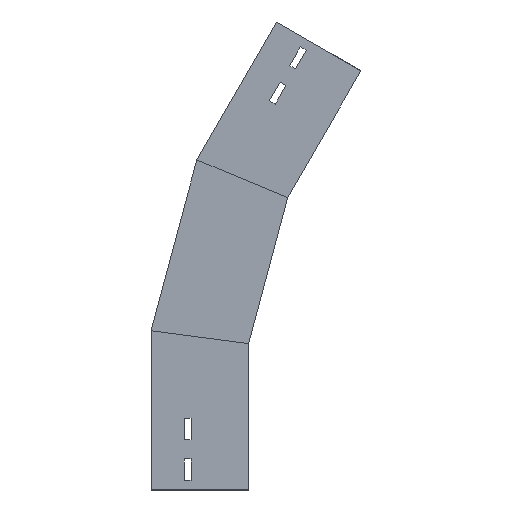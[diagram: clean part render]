
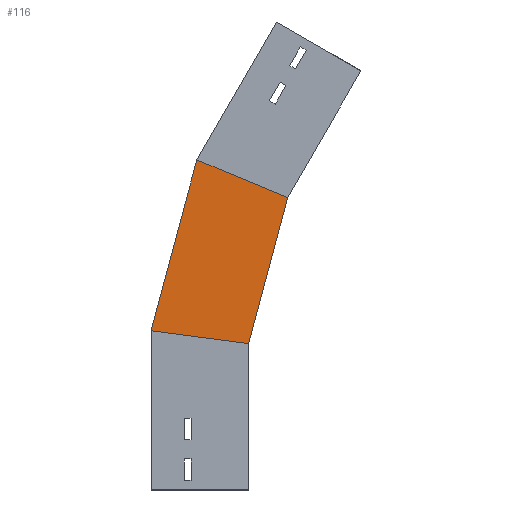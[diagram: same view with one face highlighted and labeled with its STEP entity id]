
A CAD part, left-side view. The second image highlights one B-rep face of the part: STEP entity #116.
In plain terms, the highlighted planar face has unit normal (-1, 0, 0) as drawn and (1, 0, 0) by its records, which use the part's own axes.
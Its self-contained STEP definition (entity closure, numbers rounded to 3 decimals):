
#68 = DIRECTION ( 'NONE',  ( 0., -0.259, 0.966 ) ) ;
#73 = CARTESIAN_POINT ( 'NONE',  ( 0., -19.411, 147.444 ) ) ;
#76 = CARTESIAN_POINT ( 'NONE',  ( 0., 3.774, 135.915 ) ) ;
#81 = ORIENTED_EDGE ( 'NONE', *, *, #213, .T. ) ;
#83 = ORIENTED_EDGE ( 'NONE', *, *, #96, .T. ) ;
#96 = EDGE_CURVE ( 'NONE', #253, #535, #423, .T. ) ;
#116 = ADVANCED_FACE ( 'NONE', ( #1366 ), #242, .T. ) ;
#130 = VECTOR ( 'NONE', #414, 1000. ) ;
#213 = EDGE_CURVE ( 'NONE', #828, #253, #899, .T. ) ;
#232 = DIRECTION ( 'NONE',  ( 1., 0., 0. ) ) ;
#236 = VECTOR ( 'NONE', #68, 1000. ) ;
#242 = PLANE ( 'NONE',  #359 ) ;
#253 = VERTEX_POINT ( 'NONE', #1165 ) ;
#268 = ORIENTED_EDGE ( 'NONE', *, *, #321, .F. ) ;
#288 = LINE ( 'NONE', #76, #236 ) ;
#321 = EDGE_CURVE ( 'NONE', #828, #1250, #1097, .T. ) ;
#331 = VECTOR ( 'NONE', #674, 1000. ) ;
#359 = AXIS2_PLACEMENT_3D ( 'NONE', #1143, #232, #1258 ) ;
#414 = DIRECTION ( 'NONE',  ( 0., -0.991, -0.131 ) ) ;
#423 = LINE ( 'NONE', #873, #1008 ) ;
#449 = EDGE_LOOP ( 'NONE', ( #81, #83, #1228, #268 ) ) ;
#535 = VERTEX_POINT ( 'NONE', #856 ) ;
#599 = EDGE_CURVE ( 'NONE', #1250, #535, #288, .T. ) ;
#674 = DIRECTION ( 'NONE',  ( 0., -0.259, 0.966 ) ) ;
#719 = CARTESIAN_POINT ( 'NONE',  ( 0., 100., 163.165 ) ) ;
#828 = VERTEX_POINT ( 'NONE', #719 ) ;
#856 = CARTESIAN_POINT ( 'NONE',  ( 0., -40.117, 299.719 ) ) ;
#873 = CARTESIAN_POINT ( 'NONE',  ( 0., -60.567, 291.248 ) ) ;
#899 = LINE ( 'NONE', #1485, #331 ) ;
#1008 = VECTOR ( 'NONE', #1333, 1000. ) ;
#1097 = LINE ( 'NONE', #73, #130 ) ;
#1143 = CARTESIAN_POINT ( 'NONE',  ( 0., 3.774, 135.915 ) ) ;
#1165 = CARTESIAN_POINT ( 'NONE',  ( 0., 53.068, 338.317 ) ) ;
#1228 = ORIENTED_EDGE ( 'NONE', *, *, #599, .F. ) ;
#1250 = VERTEX_POINT ( 'NONE', #1338 ) ;
#1258 = DIRECTION ( 'NONE',  ( 0., 0., -1. ) ) ;
#1333 = DIRECTION ( 'NONE',  ( 0., -0.924, -0.383 ) ) ;
#1338 = CARTESIAN_POINT ( 'NONE',  ( 0., 0., 150. ) ) ;
#1366 = FACE_OUTER_BOUND ( 'NONE', #449, .T. ) ;
#1485 = CARTESIAN_POINT ( 'NONE',  ( 0., 100.367, 161.797 ) ) ;
